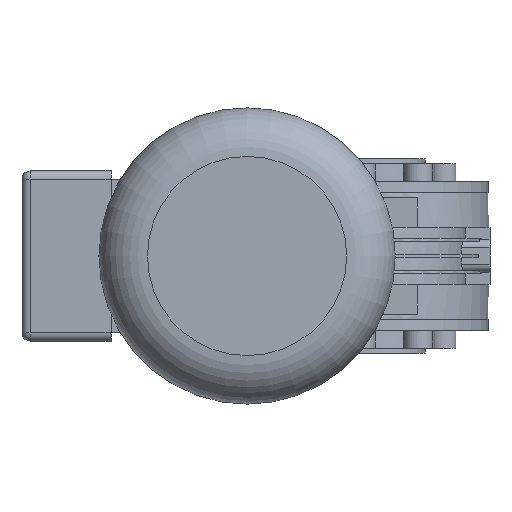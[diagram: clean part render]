
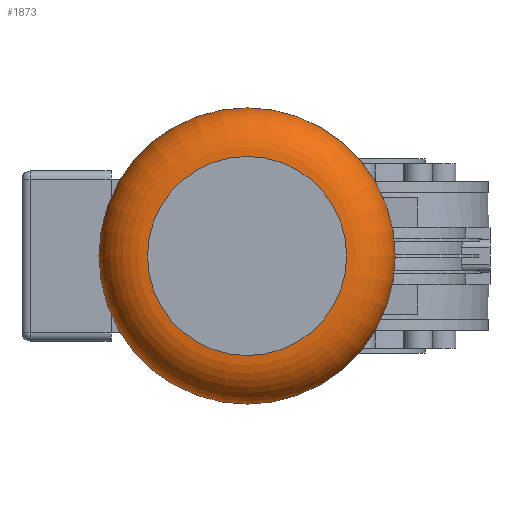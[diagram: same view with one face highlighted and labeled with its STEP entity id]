
A CAD part, left-side view. The second image highlights one B-rep face of the part: STEP entity #1873.
In plain terms, the highlighted toroidal (fillet/blend) face has major radius 61.5 mm and minor radius 30 mm.
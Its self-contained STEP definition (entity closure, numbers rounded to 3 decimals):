
#1873 = ADVANCED_FACE( '', ( #4106, #4107 ), #4108, .T. );
#4106 = FACE_OUTER_BOUND( '', #6651, .T. );
#4107 = FACE_OUTER_BOUND( '', #6652, .T. );
#4108 = TOROIDAL_SURFACE( '', #6653, 61.5, 30. );
#6651 = EDGE_LOOP( '', ( #12342 ) );
#6652 = EDGE_LOOP( '', ( #12343 ) );
#6653 = AXIS2_PLACEMENT_3D( '', #12344, #12345, #12346 );
#12342 = ORIENTED_EDGE( '', *, *, #16808, .F. );
#12343 = ORIENTED_EDGE( '', *, *, #16809, .F. );
#12344 = CARTESIAN_POINT( '', ( -405.5, 70., 0. ) );
#12345 = DIRECTION( '', ( -1., 0., 0. ) );
#12346 = DIRECTION( '', ( 0., 1., 0. ) );
#16808 = EDGE_CURVE( '', #20813, #20813, #20814, .T. );
#16809 = EDGE_CURVE( '', #20815, #20815, #20816, .F. );
#20813 = VERTEX_POINT( '', #26475 );
#20814 = CIRCLE( '', #26476, 61.5 );
#20815 = VERTEX_POINT( '', #26477 );
#20816 = CIRCLE( '', #26478, 91.5 );
#26475 = CARTESIAN_POINT( '', ( -435.5, 131.5, 0. ) );
#26476 = AXIS2_PLACEMENT_3D( '', #29647, #29648, #29649 );
#26477 = CARTESIAN_POINT( '', ( -405.5, 161.5, 0. ) );
#26478 = AXIS2_PLACEMENT_3D( '', #29650, #29651, #29652 );
#29647 = CARTESIAN_POINT( '', ( -435.5, 70., 0. ) );
#29648 = DIRECTION( '', ( -1., 0., 0. ) );
#29649 = DIRECTION( '', ( 0., 1., 0. ) );
#29650 = CARTESIAN_POINT( '', ( -405.5, 70., 0. ) );
#29651 = DIRECTION( '', ( -1., 0., 0. ) );
#29652 = DIRECTION( '', ( 0., 1., 0. ) );
